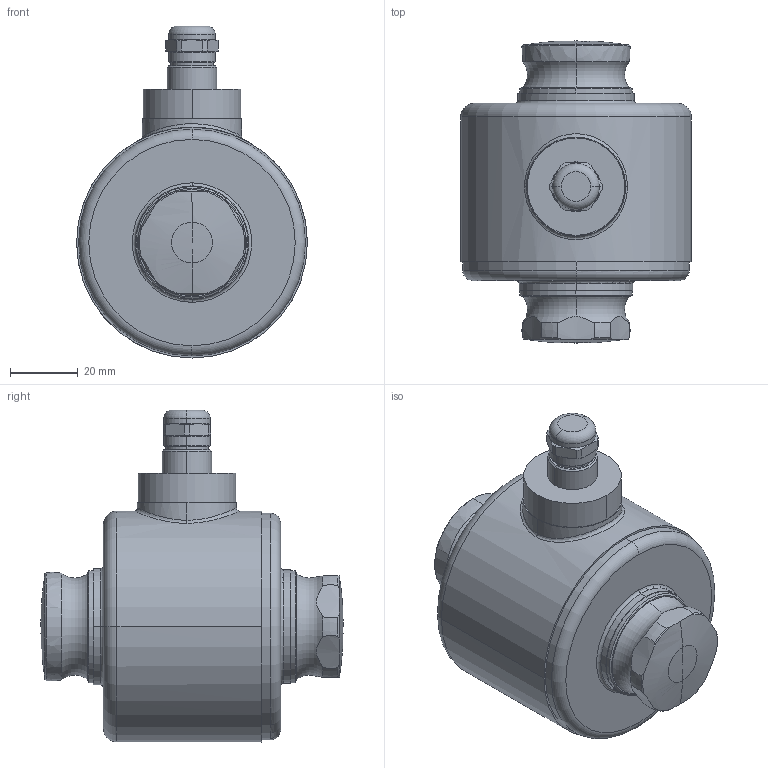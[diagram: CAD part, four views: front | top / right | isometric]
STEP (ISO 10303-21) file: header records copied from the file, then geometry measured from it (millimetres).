
FILE_DESCRIPTION((''),'2;1');
FILE_NAME('30220610_SW0003','2015-06-29T',('shi-27'),(''),'PRO/ENGINEER BY PARAMETRIC TECHNOLOGY CORPORATION, 2013320','PRO/ENGINEER BY PARAMETRIC TECHNOLOGY CORPORATION, 2013320','');
FILE_SCHEMA(('CONFIG_CONTROL_DESIGN'));
Length unit declared in the file: millimetre
Products named in the file (1): 30220610_SW0003
Bounding box: 68 x 89 x 97.8 mm (x, y, z)
Volume: 225659.2 mm3; surface area: 23062.1 mm2
Topology: 1 solids, 1 shells, 106 faces, 284 edges, 182 vertices
Faces by surface type: cylinder 36, cone 20, plane 18, sphere 16, torus 14, bspline 2
Entity records: 3956 total; most frequent: CARTESIAN_POINT 1292, DIRECTION 578, ORIENTED_EDGE 548, EDGE_CURVE 274, AXIS2_PLACEMENT_3D 262, VERTEX_POINT 182, CIRCLE 158, EDGE_LOOP 118
